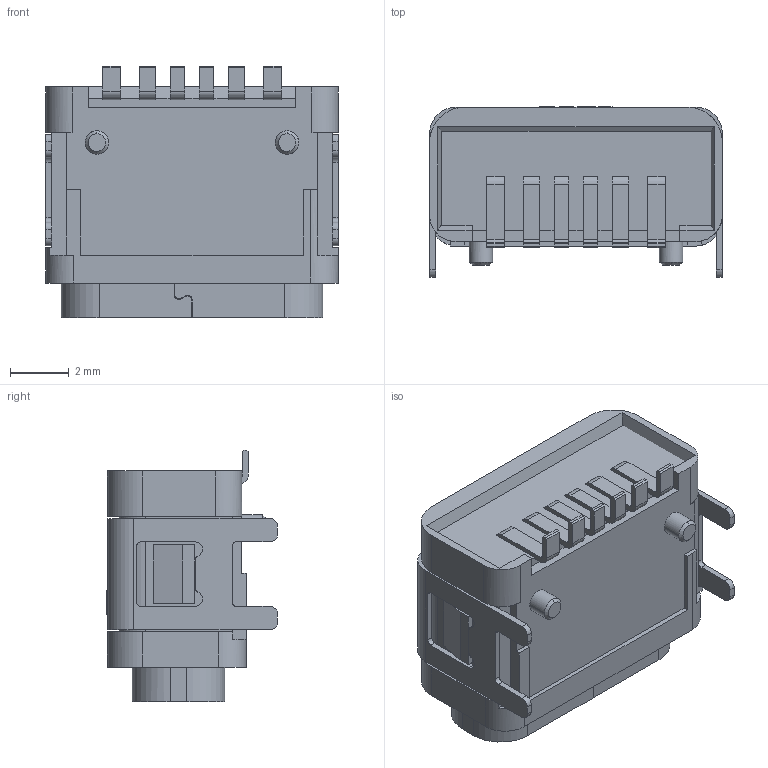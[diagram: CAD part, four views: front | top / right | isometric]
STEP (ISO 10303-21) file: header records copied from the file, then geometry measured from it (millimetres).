
FILE_DESCRIPTION (( 'STEP AP214' ), '1' );
FILE_NAME ('U5259-06PN7.85LF.STEP', '2026-07-29T02:52:40', ( '' ), ( '' ), 'SwSTEP 2.0', 'SolidWorks 2024', '' );
FILE_SCHEMA (( 'AUTOMOTIVE_DESIGN' ));
Length unit declared in the file: millimetre
Products named in the file (9): 2_2_1_1; 2_2_ASM_1_ASM-0; 2_2_ASM_1_ASM; SHELL-2_1_3_1_1; U5259-06PN7.85LF(2); 1020037_ASM_1_ASM; 2_2_2_1; U5259-06PN7.85LF; 1020037_ASM_1_ASM_1_ASM
Assembly tree (8 placements, depth 6):
  U5259-06PN7.85LF
    U5259-06PN7.85LF(2)
      1020037_ASM_1_ASM
        1020037_ASM_1_ASM_1_ASM
          2_2_ASM_1_ASM
            2_2_1_1
            2_2_2_1
            2_2_ASM_1_ASM-0
          SHELL-2_1_3_1_1
Bounding box: 10 x 5.84 x 8.6 mm (x, y, z)
Volume: 143.9 mm3; surface area: 955.9 mm2
Topology: 3 solids, 4 shells, 807 faces, 2227 edges, 1469 vertices
Faces by surface type: plane 636, cylinder 126, bspline 25, cone 20
Entity records: 27446 total; most frequent: CARTESIAN_POINT 7052, ORIENTED_EDGE 4442, DIRECTION 3747, EDGE_CURVE 2227, VECTOR 1691, LINE 1691, VERTEX_POINT 1469, AXIS2_PLACEMENT_3D 1028
